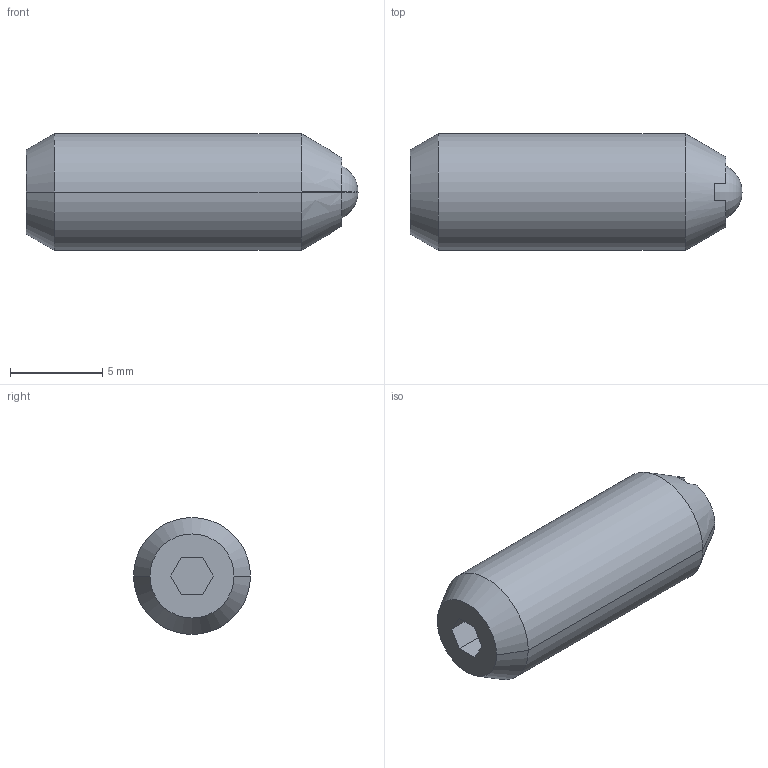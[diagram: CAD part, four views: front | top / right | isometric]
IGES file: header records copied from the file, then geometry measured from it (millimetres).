
Start section:  PTC IGES file: phb54-3d.igs
Global section: file name: phb54-3d.igs; native system: Pro/ENGINEER by Parametric Technology Corporation; preprocessor: 2002350; author: chant; organization: Unknown; date: 061026.092149; units: inch
Bounding box: 18.03 x 6.35 x 6.35 mm (x, y, z)
Surface area: 449.9 mm2 (no closed solid volume)
Topology: 0 solids, 0 shells, 27 faces, 191 edges, 241 vertices
Faces by surface type: bspline 15, revolution 12
